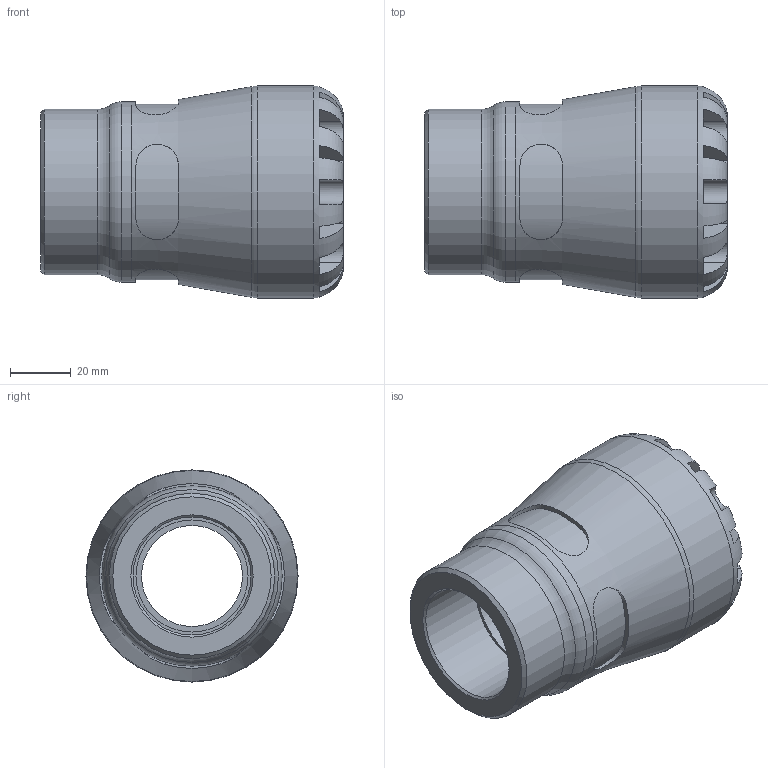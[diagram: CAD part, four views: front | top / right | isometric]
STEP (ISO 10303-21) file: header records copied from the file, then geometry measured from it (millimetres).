
FILE_DESCRIPTION(/* description */ ('PLASSON FEMALE ADAPTOR 40X1.1/4" SERIES 1'),/* implementation_level */ '2;1');
FILE_NAME(/* name */ 'C:\Dropbox\KIMPROJECTS-Inventor\99-16-3568-Processing\1003\100300040013_190300040013.ipt.step',/* time_stamp */ '2017-01-22T09:49:20+02:00',/* author */ ('KIM'),/* organization */ (''),/* preprocessor_version */ 'ST-DEVELOPER v15.6',/* originating_system */ 'Autodesk Inventor 2015',/* authorisation */ '');
FILE_SCHEMA (('AUTOMOTIVE_DESIGN { 1 0 10303 214 3 1 1 }'));
Length unit declared in the file: millimetre
Products named in the file (1): 100300040013_190300040013
Bounding box: 100 x 70 x 70 mm (x, y, z)
Volume: 179810.6 mm3; surface area: 37844.2 mm2
Topology: 1 solids, 1 shells, 104 faces, 255 edges, 159 vertices
Faces by surface type: plane 61, cylinder 35, torus 5, cone 3
Full cylindrical faces by diameter (mm): 33.333 x1, 37.004 x1, 38.952 x1, 40 x1, 54.6 x1, 59.5 x1, 70 x1
Entity records: 3882 total; most frequent: CARTESIAN_POINT 1443, DIRECTION 472, ORIENTED_EDGE 470, EDGE_CURVE 235, AXIS2_PLACEMENT_3D 196, VERTEX_POINT 155, EDGE_LOOP 128, STYLED_ITEM 105
